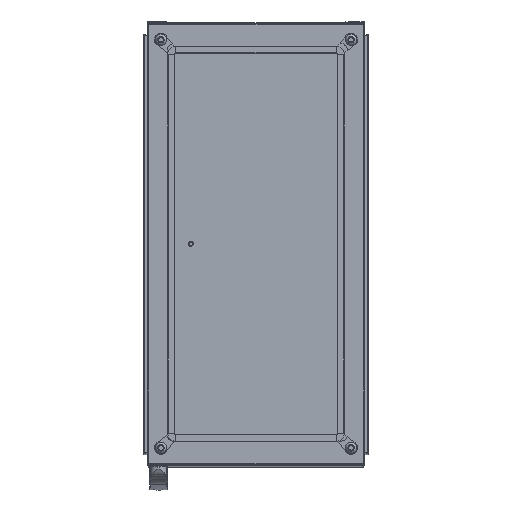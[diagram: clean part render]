
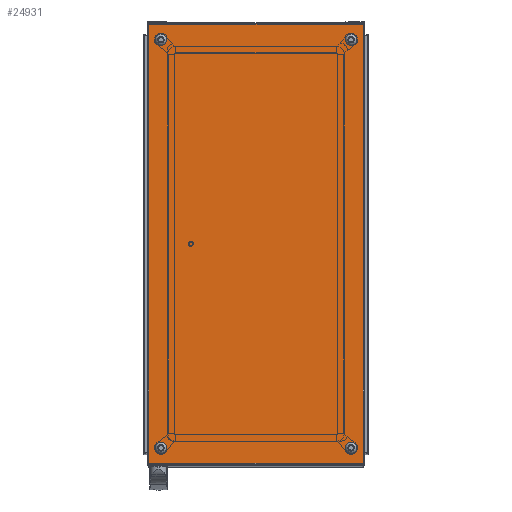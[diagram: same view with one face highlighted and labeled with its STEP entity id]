
A CAD part, top view. The second image highlights one B-rep face of the part: STEP entity #24931.
In plain terms, the highlighted planar face has unit normal (0, 0, 1).
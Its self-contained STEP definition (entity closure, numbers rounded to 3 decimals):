
#1279=CIRCLE('',#26828,6.);
#1280=CIRCLE('',#26829,6.);
#1281=CIRCLE('',#26830,6.);
#1282=CIRCLE('',#26831,6.);
#4907=ORIENTED_EDGE('',*,*,#10725,.F.);
#4908=ORIENTED_EDGE('',*,*,#10726,.F.);
#4909=ORIENTED_EDGE('',*,*,#10727,.F.);
#4910=ORIENTED_EDGE('',*,*,#10728,.F.);
#4911=ORIENTED_EDGE('',*,*,#10714,.T.);
#4912=ORIENTED_EDGE('',*,*,#10722,.T.);
#4913=ORIENTED_EDGE('',*,*,#10685,.F.);
#4914=ORIENTED_EDGE('',*,*,#10729,.F.);
#10685=EDGE_CURVE('',#13829,#13830,#16309,.T.);
#10714=EDGE_CURVE('',#13851,#13850,#16315,.T.);
#10722=EDGE_CURVE('',#13850,#13830,#16320,.T.);
#10725=EDGE_CURVE('',#13852,#13852,#1279,.T.);
#10726=EDGE_CURVE('',#13853,#13853,#1280,.T.);
#10727=EDGE_CURVE('',#13854,#13854,#1281,.T.);
#10728=EDGE_CURVE('',#13855,#13855,#1282,.T.);
#10729=EDGE_CURVE('',#13851,#13829,#16323,.T.);
#13829=VERTEX_POINT('',#39115);
#13830=VERTEX_POINT('',#39117);
#13850=VERTEX_POINT('',#39191);
#13851=VERTEX_POINT('',#39193);
#13852=VERTEX_POINT('',#39210);
#13853=VERTEX_POINT('',#39212);
#13854=VERTEX_POINT('',#39214);
#13855=VERTEX_POINT('',#39216);
#16309=LINE('',#39116,#18494);
#16315=LINE('',#39192,#18500);
#16320=LINE('',#39204,#18505);
#16323=LINE('',#39217,#18508);
#18494=VECTOR('',#31382,1000.);
#18500=VECTOR('',#31436,1000.);
#18505=VECTOR('',#31453,1000.);
#18508=VECTOR('',#31468,1000.);
#20377=EDGE_LOOP('',(#4907));
#20378=EDGE_LOOP('',(#4908));
#20379=EDGE_LOOP('',(#4909));
#20380=EDGE_LOOP('',(#4910));
#20381=EDGE_LOOP('',(#4911,#4912,#4913,#4914));
#22388=FACE_BOUND('',#20377,.T.);
#22389=FACE_BOUND('',#20378,.T.);
#22390=FACE_BOUND('',#20379,.T.);
#22391=FACE_BOUND('',#20380,.T.);
#22392=FACE_BOUND('',#20381,.T.);
#24056=PLANE('',#26827);
#24931=ADVANCED_FACE('',(#22388,#22389,#22390,#22391,#22392),#24056,.T.);
#26827=AXIS2_PLACEMENT_3D('',#39208,#31458,#31459);
#26828=AXIS2_PLACEMENT_3D('',#39209,#31460,#31461);
#26829=AXIS2_PLACEMENT_3D('',#39211,#31462,#31463);
#26830=AXIS2_PLACEMENT_3D('',#39213,#31464,#31465);
#26831=AXIS2_PLACEMENT_3D('',#39215,#31466,#31467);
#31382=DIRECTION('',(-1.,0.,0.));
#31436=DIRECTION('',(-1.,0.,0.));
#31453=DIRECTION('',(0.,-1.,0.));
#31458=DIRECTION('',(0.,0.,1.));
#31459=DIRECTION('',(1.,0.,0.));
#31460=DIRECTION('',(0.,0.,1.));
#31461=DIRECTION('',(1.,0.,0.));
#31462=DIRECTION('',(0.,0.,1.));
#31463=DIRECTION('',(1.,0.,0.));
#31464=DIRECTION('',(0.,0.,1.));
#31465=DIRECTION('',(1.,0.,0.));
#31466=DIRECTION('',(0.,0.,1.));
#31467=DIRECTION('',(1.,0.,0.));
#31468=DIRECTION('',(0.,-1.,0.));
#39115=CARTESIAN_POINT('',(196.5,-402.5,20.));
#39116=CARTESIAN_POINT('',(200.,-402.5,20.));
#39117=CARTESIAN_POINT('',(-196.5,-402.5,20.));
#39191=CARTESIAN_POINT('',(-196.5,402.5,20.));
#39192=CARTESIAN_POINT('',(200.,402.5,20.));
#39193=CARTESIAN_POINT('',(196.5,402.5,20.));
#39204=CARTESIAN_POINT('',(-196.5,405.5,20.));
#39208=CARTESIAN_POINT('',(-196.5,-402.5,20.));
#39209=CARTESIAN_POINT('',(174.5,-374.5,20.));
#39210=CARTESIAN_POINT('',(180.5,-374.5,20.));
#39211=CARTESIAN_POINT('',(-174.5,374.5,20.));
#39212=CARTESIAN_POINT('',(-168.5,374.5,20.));
#39213=CARTESIAN_POINT('',(174.5,374.5,20.));
#39214=CARTESIAN_POINT('',(180.5,374.5,20.));
#39215=CARTESIAN_POINT('',(-174.5,-374.5,20.));
#39216=CARTESIAN_POINT('',(-168.5,-374.5,20.));
#39217=CARTESIAN_POINT('',(196.5,405.5,20.));
